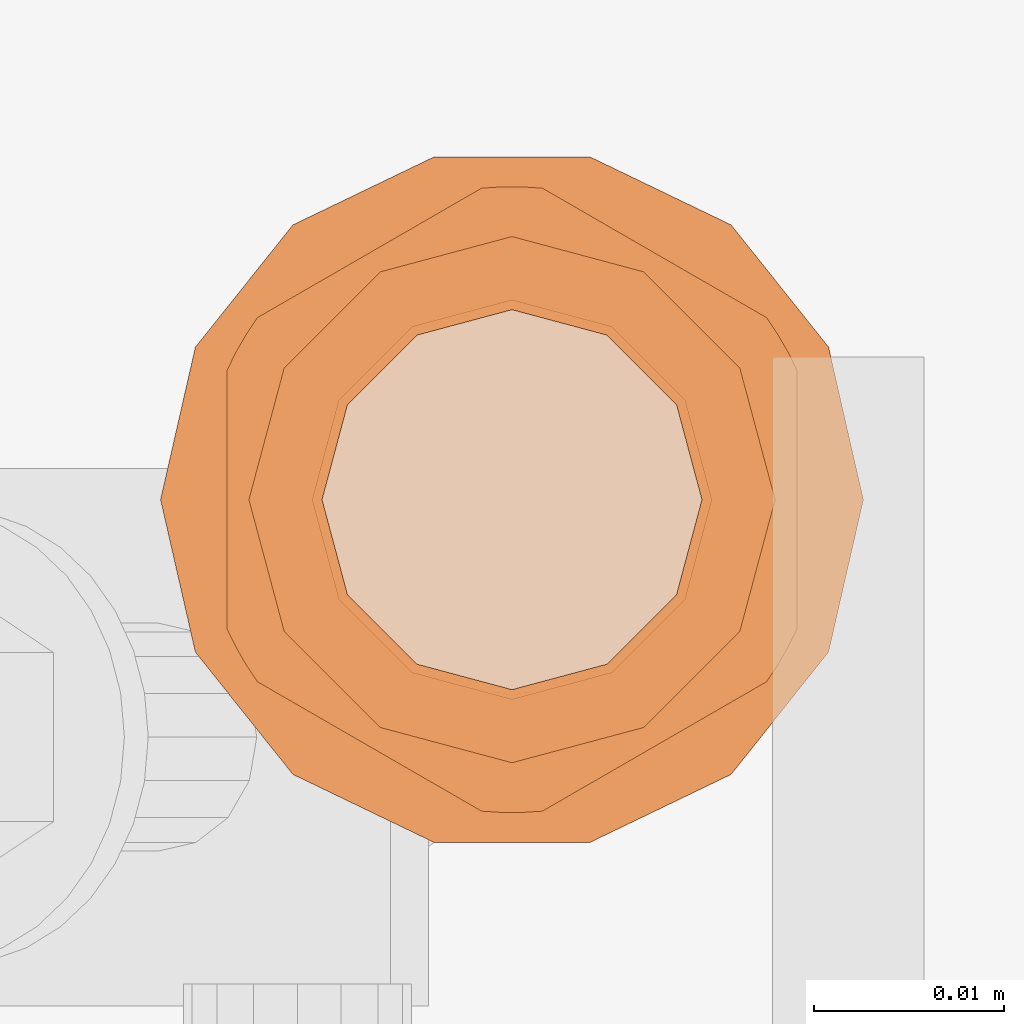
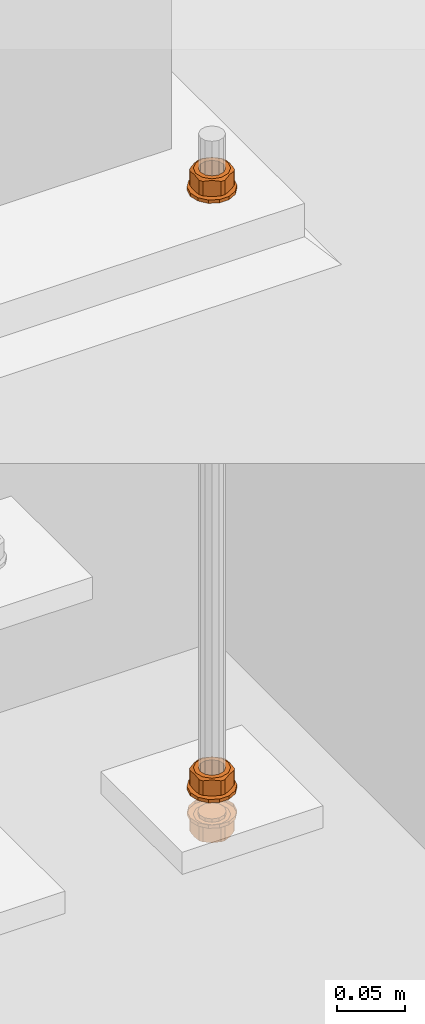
# One storey, part 138 of 145: 6 proxies.
"""IFC2X3 building model written with IfcOpenShell, lengths in millimetres."""

from ifc_helpers import new_model, entity, si_unit, converted_unit, origin_with_axes, place, context, project, spatial, faceted_brep, material, element, save


model = new_model("IFC2X3")

# Units and contexts
model_context = context("Model", 3, precision=1e-09, world=origin_with_axes())
ifc_project = project(units=[si_unit("LENGTHUNIT", "METRE", prefix="MILLI"), si_unit("AREAUNIT", "SQUARE_METRE"), si_unit("VOLUMEUNIT", "CUBIC_METRE"), converted_unit("PLANEANGLEUNIT", "DEGREE", entity("IfcPlaneAngleMeasure", 0.01745329), si_unit("PLANEANGLEUNIT", "RADIAN"), dimensions=[0, 0, 0, 0, 0, 0, 0])], contexts=[model_context])

# Site, building, storey
site_placement = place(None, origin_with_axes())
site = spatial("IfcSite", under=ifc_project, at=site_placement, Name="BZ1 Grund- und Mittelschule 85716 Unterschlei?heim", CompositionType="ELEMENT")
building_placement = place(site_placement, origin_with_axes())
building = spatial("IfcBuilding", under=site, at=building_placement, Name="Struktur 1", CompositionType="ELEMENT")
storey_placement = place(building_placement, origin_with_axes())
storey = spatial("IfcBuildingStorey", under=building, at=storey_placement, Name="Default Storey", CompositionType="ELEMENT", Elevation=0.0)

# Proxies
ifc_material = material(Name="A2")
proxy_1_placement = place(None, origin_with_axes())
element("IfcBuildingElementProxy", 1, at=proxy_1_placement, inside=storey, material=ifc_material, ObjectType="-", context=model_context, shape_type="Brep", body=[
    faceted_brep([(17192.379288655, -1850.538117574, -1247.0), (17184.961364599, -1846.965833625, -1247.0), (17176.728090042, -1846.965833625, -1247.0), (17169.310165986, -1850.538117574, -1247.0), (17164.176803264, -1856.975150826, -1247.0), (17162.344727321, -1865.002, -1247.0), (17164.176803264, -1873.028849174, -1247.0), (17169.310165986, -1879.465882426, -1247.0), (17176.728090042, -1883.038166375, -1247.0), (17184.961364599, -1883.038166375, -1247.0), (17192.379288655, -1879.465882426, -1247.0), (17197.512651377, -1873.028849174, -1247.0), (17199.344727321, -1865.002, -1247.0), (17197.512651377, -1856.975150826, -1247.0), (17180.844727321, -1854.502, -1247.0), (17186.094727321, -1855.90873326, -1247.0), (17189.93799406, -1859.752, -1247.0), (17191.344727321, -1865.002, -1247.0), (17189.93799406, -1870.252, -1247.0), (17186.094727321, -1874.09526674, -1247.0), (17180.844727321, -1875.502, -1247.0), (17175.594727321, -1874.09526674, -1247.0), (17171.751460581, -1870.252, -1247.0), (17170.344727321, -1865.002, -1247.0), (17171.751460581, -1859.752, -1247.0), (17175.594727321, -1855.90873326, -1247.0), (17169.310165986, -1850.538117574, -1250.0), (17176.728090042, -1846.965833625, -1250.0), (17184.961364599, -1846.965833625, -1250.0), (17192.379288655, -1850.538117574, -1250.0), (17197.512651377, -1856.975150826, -1250.0), (17199.344727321, -1865.002, -1250.0), (17197.512651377, -1873.028849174, -1250.0), (17192.379288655, -1879.465882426, -1250.0), (17184.961364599, -1883.038166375, -1250.0), (17176.728090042, -1883.038166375, -1250.0), (17169.310165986, -1879.465882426, -1250.0), (17164.176803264, -1873.028849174, -1250.0), (17162.344727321, -1865.002, -1250.0), (17164.176803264, -1856.975150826, -1250.0), (17180.844727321, -1854.502, -1250.0), (17175.594727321, -1855.90873326, -1250.0), (17171.751460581, -1859.752, -1250.0), (17170.344727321, -1865.002, -1250.0), (17171.751460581, -1870.252, -1250.0), (17175.594727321, -1874.09526674, -1250.0), (17180.844727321, -1875.502, -1250.0), (17186.094727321, -1874.09526674, -1250.0), (17189.93799406, -1870.252, -1250.0), (17191.344727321, -1865.002, -1250.0), (17189.93799406, -1859.752, -1250.0), (17186.094727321, -1855.90873326, -1250.0)], [[[0, 1, 2, 3, 4, 5, 6, 7, 8, 9, 10, 11, 12, 13], [14, 15, 16, 17, 18, 19, 20, 21, 22, 23, 24, 25]], [[26, 3, 2, 27]], [[26, 27, 28, 29, 30, 31, 32, 33, 34, 35, 36, 37, 38, 39], [40, 41, 42, 43, 44, 45, 46, 47, 48, 49, 50, 51]], [[3, 26, 39, 4]], [[41, 25, 24, 42]], [[4, 39, 38, 5]], [[25, 41, 40, 14]], [[27, 2, 1, 28]], [[42, 24, 23, 43]], [[5, 38, 37, 6]], [[14, 40, 51, 15]], [[28, 1, 0, 29]], [[43, 23, 22, 44]], [[6, 37, 36, 7]], [[15, 51, 50, 16]], [[29, 0, 13, 30]], [[44, 22, 21, 45]], [[7, 36, 35, 8]], [[16, 50, 49, 17]], [[12, 31, 30, 13]], [[45, 21, 20, 46]], [[8, 35, 34, 9]], [[31, 12, 11, 32]], [[17, 49, 48, 18]], [[10, 33, 32, 11]], [[9, 34, 33, 10]], [[46, 20, 19, 47]], [[18, 48, 47, 19]]]),
])
proxy_2_placement = place(None, origin_with_axes())
element("IfcBuildingElementProxy", 2, at=proxy_2_placement, inside=storey, material=ifc_material, ObjectType="-", context=model_context, shape_type="Brep", body=[
    faceted_brep([(17195.371914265, -1872.772872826, -1245.484455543), (17194.838094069, -1873.697476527, -1245.484455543), (17192.839179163, -1871.927, -1247.0), (17195.371914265, -1872.772872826, -1232.515544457), (17194.838094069, -1873.697476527, -1232.515544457), (17194.245508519, -1874.585563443, -1245.484455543), (17194.245508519, -1874.585563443, -1232.515544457), (17195.844727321, -1871.815635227, -1245.484455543), (17195.844727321, -1871.815635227, -1232.515544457), (17192.839179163, -1871.927, -1231.0), (17195.844727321, -1865.002, -1246.33604719), (17194.694727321, -1865.002, -1247.0), (17188.344727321, -1877.992381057, -1246.33604719), (17188.344727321, -1877.992381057, -1231.66395281), (17182.443946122, -1881.39919867, -1232.515544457), (17182.443946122, -1881.39919867, -1245.484455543), (17181.378547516, -1881.468349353, -1245.484455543), (17181.378547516, -1881.468349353, -1232.515544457), (17180.310907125, -1881.468349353, -1232.515544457), (17180.310907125, -1881.468349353, -1245.484455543), (17195.844727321, -1858.188364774, -1245.484455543), (17195.844727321, -1858.188364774, -1232.515544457), (17195.844727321, -1865.002, -1231.66395281), (17187.769727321, -1853.007548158, -1247.0), (17192.839179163, -1858.077, -1247.0), (17187.769727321, -1876.996451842, -1247.0), (17180.844727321, -1878.852, -1247.0), (17173.919727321, -1876.996451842, -1247.0), (17168.850275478, -1871.927, -1247.0), (17166.994727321, -1865.002, -1247.0), (17168.850275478, -1858.077, -1247.0), (17173.919727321, -1853.007548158, -1247.0), (17180.844727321, -1851.152, -1247.0), (17190.844727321, -1865.002, -1247.0), (17189.504981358, -1860.002, -1247.0), (17185.844727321, -1856.341745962, -1247.0), (17180.844727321, -1855.002, -1247.0), (17175.844727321, -1856.341745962, -1247.0), (17172.184473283, -1860.002, -1247.0), (17170.844727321, -1865.002, -1247.0), (17172.184473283, -1870.002, -1247.0), (17175.844727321, -1873.662254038, -1247.0), (17180.844727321, -1875.002, -1247.0), (17185.844727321, -1873.662254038, -1247.0), (17189.504981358, -1870.002, -1247.0), (17189.504981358, -1870.002, -1231.0), (17185.844727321, -1873.662254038, -1231.0), (17187.769727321, -1876.996451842, -1231.0), (17180.844727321, -1878.852, -1231.0), (17195.371914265, -1857.231127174, -1245.484455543), (17195.371914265, -1857.231127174, -1232.515544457), (17194.694727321, -1865.002, -1231.0), (17192.839179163, -1858.077, -1231.0), (17187.769727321, -1853.007548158, -1231.0), (17180.844727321, -1851.152, -1231.0), (17173.919727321, -1853.007548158, -1231.0), (17168.850275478, -1858.077, -1231.0), (17166.994727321, -1865.002, -1231.0), (17168.850275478, -1871.927, -1231.0), (17173.919727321, -1876.996451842, -1231.0), (17190.844727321, -1865.002, -1231.0), (17180.844727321, -1875.002, -1231.0), (17175.844727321, -1873.662254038, -1231.0), (17172.184473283, -1870.002, -1231.0), (17170.844727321, -1865.002, -1231.0), (17172.184473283, -1860.002, -1231.0), (17175.844727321, -1856.341745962, -1231.0), (17180.844727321, -1855.002, -1231.0), (17185.844727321, -1856.341745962, -1231.0), (17189.504981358, -1860.002, -1231.0), (17179.245508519, -1881.39919867, -1245.484455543), (17179.245508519, -1881.39919867, -1232.515544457), (17194.838094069, -1856.306523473, -1245.484455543), (17194.838094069, -1856.306523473, -1232.515544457), (17173.344727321, -1877.992381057, -1246.33604719), (17173.344727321, -1877.992381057, -1231.66395281), (17167.443946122, -1874.585563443, -1232.515544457), (17167.443946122, -1874.585563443, -1245.484455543), (17194.245508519, -1855.418436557, -1245.484455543), (17194.245508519, -1855.418436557, -1232.515544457), (17188.344727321, -1852.011618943, -1246.33604719), (17182.443946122, -1848.60480133, -1245.484455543), (17182.443946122, -1848.60480133, -1232.515544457), (17188.344727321, -1852.011618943, -1231.66395281), (17166.851360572, -1873.697476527, -1232.515544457), (17166.851360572, -1873.697476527, -1245.484455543), (17166.317540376, -1872.772872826, -1232.515544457), (17166.317540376, -1872.772872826, -1245.484455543), (17181.378547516, -1848.535650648, -1245.484455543), (17181.378547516, -1848.535650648, -1232.515544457), (17180.310907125, -1848.535650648, -1245.484455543), (17180.310907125, -1848.535650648, -1232.515544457), (17165.844727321, -1871.815635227, -1232.515544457), (17165.844727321, -1871.815635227, -1245.484455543), (17179.245508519, -1848.60480133, -1245.484455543), (17179.245508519, -1848.60480133, -1232.515544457), (17165.844727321, -1865.002, -1246.33604719), (17173.344727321, -1852.011618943, -1246.33604719), (17167.443946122, -1855.418436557, -1245.484455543), (17167.443946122, -1855.418436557, -1232.515544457), (17173.344727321, -1852.011618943, -1231.66395281), (17165.844727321, -1865.002, -1231.66395281), (17165.844727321, -1858.188364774, -1232.515544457), (17165.844727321, -1858.188364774, -1245.484455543), (17166.317540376, -1857.231127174, -1245.484455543), (17166.317540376, -1857.231127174, -1232.515544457), (17166.851360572, -1856.306523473, -1245.484455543), (17166.851360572, -1856.306523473, -1232.515544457)], [[[0, 1, 2]], [[0, 3, 4, 1]], [[5, 2, 1]], [[1, 4, 6, 5]], [[7, 0, 2]], [[3, 0, 7, 8]], [[9, 4, 3]], [[10, 7, 11]], [[7, 2, 11]], [[5, 12, 2]], [[6, 13, 14, 15, 12, 5]], [[9, 6, 4]], [[16, 17, 18, 19]], [[17, 16, 15, 14]], [[10, 20, 21, 22, 8, 7]], [[9, 3, 8]], [[20, 10, 11]], [[23, 24, 11, 2, 25, 26, 27, 28, 29, 30, 31, 32], [33, 34, 35, 36, 37, 38, 39, 40, 41, 42, 43, 44]], [[16, 19, 26]], [[12, 25, 2]], [[45, 44, 43, 46]], [[9, 47, 6]], [[48, 17, 14]], [[49, 50, 21, 20]], [[51, 9, 8]], [[9, 51, 52, 53, 54, 55, 56, 57, 58, 59, 48, 47], [60, 45, 46, 61, 62, 63, 64, 65, 66, 67, 68, 69]], [[44, 45, 60, 33]], [[20, 24, 49]], [[20, 11, 24]], [[70, 26, 19]], [[12, 15, 25]], [[15, 16, 26]], [[48, 14, 13]], [[47, 13, 6]], [[19, 18, 71, 70]], [[48, 18, 17]], [[72, 73, 50, 49]], [[51, 8, 22]], [[72, 49, 24]], [[70, 74, 26]], [[15, 26, 25]], [[46, 43, 42, 61]], [[47, 48, 13]], [[48, 71, 18]], [[71, 75, 76, 77, 74, 70]], [[33, 60, 69, 34]], [[78, 79, 73, 72]], [[52, 50, 73]], [[51, 22, 21]], [[52, 21, 50]], [[78, 72, 24]], [[74, 27, 26]], [[48, 59, 71]], [[80, 81, 82, 83, 79, 78]], [[52, 73, 79]], [[52, 51, 21]], [[78, 24, 23]], [[74, 77, 27]], [[61, 42, 41, 62]], [[59, 75, 71]], [[77, 76, 84, 85]], [[34, 69, 68, 35]], [[52, 79, 83]], [[80, 78, 23]], [[81, 80, 32]], [[77, 28, 27]], [[59, 58, 75]], [[58, 76, 75]], [[77, 85, 28]], [[85, 84, 86, 87]], [[88, 89, 82, 81]], [[53, 52, 83]], [[80, 23, 32]], [[81, 32, 88]], [[62, 41, 40, 63]], [[58, 84, 76]], [[85, 87, 28]], [[35, 68, 67, 36]], [[90, 91, 89, 88]], [[53, 83, 82]], [[54, 82, 89]], [[90, 88, 32]], [[86, 84, 58]], [[87, 86, 92, 93]], [[93, 28, 87]], [[39, 64, 63, 40]], [[91, 90, 94, 95]], [[54, 89, 91]], [[54, 53, 82]], [[94, 90, 32]], [[92, 86, 58]], [[93, 96, 28]], [[64, 39, 38, 65]], [[37, 66, 65, 38]], [[36, 67, 66, 37]], [[54, 91, 95]], [[94, 32, 31]], [[97, 98, 99, 100, 95, 94]], [[96, 29, 28]], [[92, 58, 57]], [[92, 101, 102, 103, 96, 93]], [[54, 95, 100]], [[97, 94, 31]], [[96, 103, 29]], [[101, 92, 57]], [[55, 54, 100]], [[97, 31, 30]], [[103, 30, 29]], [[101, 57, 56]], [[55, 100, 99]], [[98, 97, 30]], [[103, 104, 30]], [[103, 102, 105, 104]], [[102, 101, 56]], [[99, 56, 55]], [[98, 30, 106]], [[99, 98, 106, 107]], [[104, 106, 30]], [[102, 56, 105]], [[99, 107, 56]], [[104, 105, 107, 106]], [[107, 105, 56]]]),
])
proxy_3_placement = place(None, origin_with_axes())
element("IfcBuildingElementProxy", 3, at=proxy_3_placement, inside=storey, material=ifc_material, ObjectType="-", context=model_context, shape_type="Brep", body=[
    faceted_brep([(17194.838094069, -1873.697476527, -1274.515544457), (17195.371914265, -1872.772872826, -1274.515544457), (17192.839179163, -1871.927, -1273.0), (17195.371914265, -1872.772872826, -1287.484455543), (17194.838094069, -1873.697476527, -1287.484455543), (17194.245508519, -1874.585563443, -1274.515544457), (17194.245508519, -1874.585563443, -1287.484455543), (17195.844727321, -1871.815635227, -1274.515544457), (17195.844727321, -1871.815635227, -1287.484455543), (17192.839179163, -1871.927, -1289.0), (17195.844727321, -1865.002, -1273.66395281), (17194.694727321, -1865.002, -1273.0), (17188.344727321, -1877.992381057, -1273.66395281), (17188.344727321, -1877.992381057, -1288.33604719), (17182.443946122, -1881.39919867, -1274.515544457), (17182.443946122, -1881.39919867, -1287.484455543), (17181.378547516, -1881.468349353, -1287.484455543), (17181.378547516, -1881.468349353, -1274.515544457), (17180.310907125, -1881.468349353, -1274.515544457), (17180.310907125, -1881.468349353, -1287.484455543), (17195.844727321, -1858.188364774, -1274.515544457), (17195.844727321, -1865.002, -1288.33604719), (17195.844727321, -1858.188364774, -1287.484455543), (17192.839179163, -1858.077, -1273.0), (17187.769727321, -1853.007548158, -1273.0), (17180.844727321, -1851.152, -1273.0), (17173.919727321, -1853.007548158, -1273.0), (17168.850275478, -1858.077, -1273.0), (17166.994727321, -1865.002, -1273.0), (17168.850275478, -1871.927, -1273.0), (17173.919727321, -1876.996451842, -1273.0), (17180.844727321, -1878.852, -1273.0), (17187.769727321, -1876.996451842, -1273.0), (17190.844727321, -1865.002, -1273.0), (17189.504981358, -1870.002, -1273.0), (17185.844727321, -1873.662254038, -1273.0), (17180.844727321, -1875.002, -1273.0), (17175.844727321, -1873.662254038, -1273.0), (17172.184473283, -1870.002, -1273.0), (17170.844727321, -1865.002, -1273.0), (17172.184473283, -1860.002, -1273.0), (17175.844727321, -1856.341745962, -1273.0), (17180.844727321, -1855.002, -1273.0), (17185.844727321, -1856.341745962, -1273.0), (17189.504981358, -1860.002, -1273.0), (17189.504981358, -1870.002, -1289.0), (17185.844727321, -1873.662254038, -1289.0), (17187.769727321, -1876.996451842, -1289.0), (17180.844727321, -1878.852, -1289.0), (17195.371914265, -1857.231127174, -1287.484455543), (17195.371914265, -1857.231127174, -1274.515544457), (17194.694727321, -1865.002, -1289.0), (17190.844727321, -1865.002, -1289.0), (17189.504981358, -1860.002, -1289.0), (17185.844727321, -1856.341745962, -1289.0), (17180.844727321, -1855.002, -1289.0), (17175.844727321, -1856.341745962, -1289.0), (17172.184473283, -1860.002, -1289.0), (17170.844727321, -1865.002, -1289.0), (17172.184473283, -1870.002, -1289.0), (17175.844727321, -1873.662254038, -1289.0), (17180.844727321, -1875.002, -1289.0), (17179.245508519, -1881.39919867, -1274.515544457), (17179.245508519, -1881.39919867, -1287.484455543), (17194.838094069, -1856.306523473, -1287.484455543), (17194.838094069, -1856.306523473, -1274.515544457), (17173.344727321, -1877.992381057, -1273.66395281), (17173.344727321, -1877.992381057, -1288.33604719), (17167.443946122, -1874.585563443, -1274.515544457), (17167.443946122, -1874.585563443, -1287.484455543), (17194.245508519, -1855.418436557, -1287.484455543), (17194.245508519, -1855.418436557, -1274.515544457), (17192.839179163, -1858.077, -1289.0), (17173.919727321, -1876.996451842, -1289.0), (17182.443946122, -1848.60480133, -1274.515544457), (17188.344727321, -1852.011618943, -1273.66395281), (17188.344727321, -1852.011618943, -1288.33604719), (17182.443946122, -1848.60480133, -1287.484455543), (17166.851360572, -1873.697476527, -1274.515544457), (17166.851360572, -1873.697476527, -1287.484455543), (17168.850275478, -1871.927, -1289.0), (17166.317540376, -1872.772872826, -1274.515544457), (17166.317540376, -1872.772872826, -1287.484455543), (17181.378547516, -1848.535650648, -1287.484455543), (17181.378547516, -1848.535650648, -1274.515544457), (17187.769727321, -1853.007548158, -1289.0), (17180.310907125, -1848.535650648, -1287.484455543), (17180.310907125, -1848.535650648, -1274.515544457), (17180.844727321, -1851.152, -1289.0), (17165.844727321, -1871.815635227, -1274.515544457), (17165.844727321, -1871.815635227, -1287.484455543), (17179.245508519, -1848.60480133, -1287.484455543), (17179.245508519, -1848.60480133, -1274.515544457), (17165.844727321, -1865.002, -1273.66395281), (17167.443946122, -1855.418436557, -1274.515544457), (17173.344727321, -1852.011618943, -1273.66395281), (17173.344727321, -1852.011618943, -1288.33604719), (17167.443946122, -1855.418436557, -1287.484455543), (17166.994727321, -1865.002, -1289.0), (17165.844727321, -1865.002, -1288.33604719), (17165.844727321, -1858.188364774, -1274.515544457), (17165.844727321, -1858.188364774, -1287.484455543), (17173.919727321, -1853.007548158, -1289.0), (17168.850275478, -1858.077, -1289.0), (17166.317540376, -1857.231127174, -1274.515544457), (17166.317540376, -1857.231127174, -1287.484455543), (17166.851360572, -1856.306523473, -1274.515544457), (17166.851360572, -1856.306523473, -1287.484455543)], [[[0, 1, 2]], [[3, 1, 0, 4]], [[2, 5, 0]], [[4, 0, 5, 6]], [[1, 7, 2]], [[1, 3, 8, 7]], [[4, 9, 3]], [[7, 10, 11]], [[2, 7, 11]], [[12, 5, 2]], [[13, 6, 5, 12, 14, 15]], [[6, 9, 4]], [[16, 17, 18, 19]], [[17, 16, 15, 14]], [[20, 10, 7, 8, 21, 22]], [[3, 9, 8]], [[10, 20, 11]], [[23, 24, 25, 26, 27, 28, 29, 30, 31, 32, 2, 11], [33, 34, 35, 36, 37, 38, 39, 40, 41, 42, 43, 44]], [[18, 17, 31]], [[32, 12, 2]], [[34, 45, 46, 35]], [[47, 9, 6]], [[16, 48, 15]], [[49, 50, 20, 22]], [[9, 51, 8]], [[45, 52, 53, 54, 55, 56, 57, 58, 59, 60, 61, 46]], [[45, 34, 33, 52]], [[23, 20, 50]], [[11, 20, 23]], [[31, 62, 18]], [[14, 12, 32]], [[17, 14, 31]], [[15, 48, 13]], [[13, 47, 6]], [[19, 18, 62, 63]], [[19, 48, 16]], [[64, 65, 50, 49]], [[8, 51, 21]], [[50, 65, 23]], [[66, 62, 31]], [[31, 14, 32]], [[35, 46, 61, 36]], [[48, 47, 13]], [[63, 48, 19]], [[67, 63, 62, 66, 68, 69]], [[52, 33, 44, 53]], [[70, 71, 65, 64]], [[49, 72, 64]], [[21, 51, 22]], [[22, 72, 49]], [[65, 71, 23]], [[30, 66, 31]], [[73, 48, 63]], [[74, 75, 71, 70, 76, 77]], [[64, 72, 70]], [[51, 72, 22]], [[23, 71, 24]], [[68, 66, 30]], [[36, 61, 60, 37]], [[67, 73, 63]], [[69, 68, 78, 79]], [[53, 44, 43, 54]], [[70, 72, 76]], [[71, 75, 24]], [[75, 74, 25]], [[29, 68, 30]], [[80, 73, 67]], [[69, 80, 67]], [[78, 68, 29]], [[79, 78, 81, 82]], [[83, 84, 74, 77]], [[72, 85, 76]], [[24, 75, 25]], [[25, 74, 84]], [[37, 60, 59, 38]], [[79, 80, 69]], [[81, 78, 29]], [[54, 43, 42, 55]], [[86, 87, 84, 83]], [[76, 85, 77]], [[77, 88, 83]], [[84, 87, 25]], [[79, 82, 80]], [[82, 81, 89, 90]], [[29, 89, 81]], [[58, 39, 38, 59]], [[87, 86, 91, 92]], [[83, 88, 86]], [[85, 88, 77]], [[87, 92, 25]], [[82, 90, 80]], [[93, 89, 29]], [[39, 58, 57, 40]], [[56, 41, 40, 57]], [[55, 42, 41, 56]], [[86, 88, 91]], [[25, 92, 26]], [[94, 95, 92, 91, 96, 97]], [[28, 93, 29]], [[80, 90, 98]], [[99, 90, 89, 93, 100, 101]], [[91, 88, 96]], [[92, 95, 26]], [[100, 93, 28]], [[90, 99, 98]], [[88, 102, 96]], [[26, 95, 27]], [[27, 100, 28]], [[98, 99, 103]], [[96, 102, 97]], [[95, 94, 27]], [[104, 100, 27]], [[101, 100, 104, 105]], [[99, 101, 103]], [[103, 97, 102]], [[27, 94, 106]], [[94, 97, 107, 106]], [[106, 104, 27]], [[103, 101, 105]], [[107, 97, 103]], [[105, 104, 106, 107]], [[105, 107, 103]]]),
])
proxy_4_placement = place(None, origin_with_axes())
element("IfcBuildingElementProxy", 4, at=proxy_4_placement, inside=storey, material=ifc_material, ObjectType="-", context=model_context, shape_type="Brep", body=[
    faceted_brep([(17184.961364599, -1846.965833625, -1273.0), (17192.379288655, -1850.538117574, -1273.0), (17197.512651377, -1856.975150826, -1273.0), (17199.344727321, -1865.002, -1273.0), (17197.512651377, -1873.028849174, -1273.0), (17192.379288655, -1879.465882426, -1273.0), (17184.961364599, -1883.038166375, -1273.0), (17176.728090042, -1883.038166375, -1273.0), (17169.310165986, -1879.465882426, -1273.0), (17164.176803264, -1873.028849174, -1273.0), (17162.344727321, -1865.002, -1273.0), (17164.176803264, -1856.975150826, -1273.0), (17169.310165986, -1850.538117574, -1273.0), (17176.728090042, -1846.965833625, -1273.0), (17180.844727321, -1854.502, -1273.0), (17175.594727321, -1855.90873326, -1273.0), (17171.751460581, -1859.752, -1273.0), (17170.344727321, -1865.002, -1273.0), (17171.751460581, -1870.252, -1273.0), (17175.594727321, -1874.09526674, -1273.0), (17180.844727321, -1875.502, -1273.0), (17186.094727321, -1874.09526674, -1273.0), (17189.93799406, -1870.252, -1273.0), (17191.344727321, -1865.002, -1273.0), (17189.93799406, -1859.752, -1273.0), (17186.094727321, -1855.90873326, -1273.0), (17169.310165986, -1850.538117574, -1270.0), (17176.728090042, -1846.965833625, -1270.0), (17175.594727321, -1855.90873326, -1270.0), (17180.844727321, -1854.502, -1270.0), (17186.094727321, -1855.90873326, -1270.0), (17189.93799406, -1859.752, -1270.0), (17191.344727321, -1865.002, -1270.0), (17189.93799406, -1870.252, -1270.0), (17186.094727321, -1874.09526674, -1270.0), (17180.844727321, -1875.502, -1270.0), (17175.594727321, -1874.09526674, -1270.0), (17171.751460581, -1870.252, -1270.0), (17170.344727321, -1865.002, -1270.0), (17171.751460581, -1859.752, -1270.0), (17164.176803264, -1856.975150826, -1270.0), (17162.344727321, -1865.002, -1270.0), (17184.961364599, -1846.965833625, -1270.0), (17164.176803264, -1873.028849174, -1270.0), (17192.379288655, -1850.538117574, -1270.0), (17169.310165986, -1879.465882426, -1270.0), (17197.512651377, -1856.975150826, -1270.0), (17176.728090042, -1883.038166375, -1270.0), (17199.344727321, -1865.002, -1270.0), (17184.961364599, -1883.038166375, -1270.0), (17197.512651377, -1873.028849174, -1270.0), (17192.379288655, -1879.465882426, -1270.0)], [[[0, 1, 2, 3, 4, 5, 6, 7, 8, 9, 10, 11, 12, 13], [14, 15, 16, 17, 18, 19, 20, 21, 22, 23, 24, 25]], [[12, 26, 27, 13]], [[28, 29, 30, 31, 32, 33, 34, 35, 36, 37, 38, 39]], [[26, 12, 11, 40]], [[15, 28, 39, 16]], [[40, 11, 10, 41]], [[28, 15, 14, 29]], [[13, 27, 42, 0]], [[16, 39, 38, 17]], [[41, 10, 9, 43]], [[29, 14, 25, 30]], [[0, 42, 44, 1]], [[17, 38, 37, 18]], [[43, 9, 8, 45]], [[30, 25, 24, 31]], [[1, 44, 46, 2]], [[18, 37, 36, 19]], [[45, 8, 7, 47]], [[31, 24, 23, 32]], [[48, 3, 2, 46]], [[19, 36, 35, 20]], [[47, 7, 6, 49]], [[3, 48, 50, 4]], [[32, 23, 22, 33]], [[51, 5, 4, 50]], [[49, 6, 5, 51]], [[20, 35, 34, 21]], [[33, 22, 21, 34]]]),
])
proxy_5_placement = place(None, origin_with_axes())
element("IfcBuildingElementProxy", 5, at=proxy_5_placement, inside=storey, material=ifc_material, ObjectType="-", context=model_context, shape_type="Brep", body=[
    faceted_brep([(17192.379288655, -1850.538117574, -707.0), (17184.961364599, -1846.965833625, -707.0), (17176.728090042, -1846.965833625, -707.0), (17169.310165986, -1850.538117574, -707.0), (17164.176803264, -1856.975150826, -707.0), (17162.344727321, -1865.002, -707.0), (17164.176803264, -1873.028849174, -707.0), (17169.310165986, -1879.465882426, -707.0), (17176.728090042, -1883.038166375, -707.0), (17184.961364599, -1883.038166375, -707.0), (17192.379288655, -1879.465882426, -707.0), (17197.512651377, -1873.028849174, -707.0), (17199.344727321, -1865.002, -707.0), (17197.512651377, -1856.975150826, -707.0), (17180.844727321, -1854.502, -707.0), (17186.094727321, -1855.90873326, -707.0), (17189.93799406, -1859.752, -707.0), (17191.344727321, -1865.002, -707.0), (17189.93799406, -1870.252, -707.0), (17186.094727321, -1874.09526674, -707.0), (17180.844727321, -1875.502, -707.0), (17175.594727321, -1874.09526674, -707.0), (17171.751460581, -1870.252, -707.0), (17170.344727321, -1865.002, -707.0), (17171.751460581, -1859.752, -707.0), (17175.594727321, -1855.90873326, -707.0), (17169.310165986, -1850.538117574, -710.0), (17176.728090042, -1846.965833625, -710.0), (17184.961364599, -1846.965833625, -710.0), (17192.379288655, -1850.538117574, -710.0), (17197.512651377, -1856.975150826, -710.0), (17199.344727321, -1865.002, -710.0), (17197.512651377, -1873.028849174, -710.0), (17192.379288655, -1879.465882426, -710.0), (17184.961364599, -1883.038166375, -710.0), (17176.728090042, -1883.038166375, -710.0), (17169.310165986, -1879.465882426, -710.0), (17164.176803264, -1873.028849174, -710.0), (17162.344727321, -1865.002, -710.0), (17164.176803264, -1856.975150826, -710.0), (17180.844727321, -1854.502, -710.0), (17175.594727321, -1855.90873326, -710.0), (17171.751460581, -1859.752, -710.0), (17170.344727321, -1865.002, -710.0), (17171.751460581, -1870.252, -710.0), (17175.594727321, -1874.09526674, -710.0), (17180.844727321, -1875.502, -710.0), (17186.094727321, -1874.09526674, -710.0), (17189.93799406, -1870.252, -710.0), (17191.344727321, -1865.002, -710.0), (17189.93799406, -1859.752, -710.0), (17186.094727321, -1855.90873326, -710.0)], [[[0, 1, 2, 3, 4, 5, 6, 7, 8, 9, 10, 11, 12, 13], [14, 15, 16, 17, 18, 19, 20, 21, 22, 23, 24, 25]], [[26, 3, 2, 27]], [[26, 27, 28, 29, 30, 31, 32, 33, 34, 35, 36, 37, 38, 39], [40, 41, 42, 43, 44, 45, 46, 47, 48, 49, 50, 51]], [[3, 26, 39, 4]], [[41, 25, 24, 42]], [[4, 39, 38, 5]], [[25, 41, 40, 14]], [[27, 2, 1, 28]], [[42, 24, 23, 43]], [[5, 38, 37, 6]], [[14, 40, 51, 15]], [[28, 1, 0, 29]], [[43, 23, 22, 44]], [[6, 37, 36, 7]], [[15, 51, 50, 16]], [[29, 0, 13, 30]], [[44, 22, 21, 45]], [[7, 36, 35, 8]], [[16, 50, 49, 17]], [[12, 31, 30, 13]], [[45, 21, 20, 46]], [[8, 35, 34, 9]], [[31, 12, 11, 32]], [[17, 49, 48, 18]], [[10, 33, 32, 11]], [[9, 34, 33, 10]], [[46, 20, 19, 47]], [[18, 48, 47, 19]]]),
])
proxy_6_placement = place(None, origin_with_axes())
element("IfcBuildingElementProxy", 6, at=proxy_6_placement, inside=storey, material=ifc_material, ObjectType="-", context=model_context, shape_type="Brep", body=[
    faceted_brep([(17195.371914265, -1872.772872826, -705.484455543), (17194.838094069, -1873.697476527, -705.484455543), (17192.839179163, -1871.927, -707.0), (17195.371914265, -1872.772872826, -692.515544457), (17194.838094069, -1873.697476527, -692.515544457), (17194.245508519, -1874.585563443, -705.484455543), (17194.245508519, -1874.585563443, -692.515544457), (17195.844727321, -1871.815635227, -705.484455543), (17195.844727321, -1871.815635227, -692.515544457), (17192.839179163, -1871.927, -691.0), (17195.844727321, -1865.002, -706.33604719), (17194.694727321, -1865.002, -707.0), (17188.344727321, -1877.992381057, -706.33604719), (17188.344727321, -1877.992381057, -691.66395281), (17182.443946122, -1881.39919867, -692.515544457), (17182.443946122, -1881.39919867, -705.484455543), (17181.378547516, -1881.468349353, -705.484455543), (17181.378547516, -1881.468349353, -692.515544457), (17180.310907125, -1881.468349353, -692.515544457), (17180.310907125, -1881.468349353, -705.484455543), (17195.844727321, -1858.188364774, -705.484455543), (17195.844727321, -1858.188364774, -692.515544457), (17195.844727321, -1865.002, -691.66395281), (17187.769727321, -1853.007548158, -707.0), (17192.839179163, -1858.077, -707.0), (17187.769727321, -1876.996451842, -707.0), (17180.844727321, -1878.852, -707.0), (17173.919727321, -1876.996451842, -707.0), (17168.850275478, -1871.927, -707.0), (17166.994727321, -1865.002, -707.0), (17168.850275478, -1858.077, -707.0), (17173.919727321, -1853.007548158, -707.0), (17180.844727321, -1851.152, -707.0), (17190.844727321, -1865.002, -707.0), (17189.504981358, -1860.002, -707.0), (17185.844727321, -1856.341745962, -707.0), (17180.844727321, -1855.002, -707.0), (17175.844727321, -1856.341745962, -707.0), (17172.184473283, -1860.002, -707.0), (17170.844727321, -1865.002, -707.0), (17172.184473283, -1870.002, -707.0), (17175.844727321, -1873.662254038, -707.0), (17180.844727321, -1875.002, -707.0), (17185.844727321, -1873.662254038, -707.0), (17189.504981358, -1870.002, -707.0), (17189.504981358, -1870.002, -691.0), (17185.844727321, -1873.662254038, -691.0), (17187.769727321, -1876.996451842, -691.0), (17180.844727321, -1878.852, -691.0), (17195.371914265, -1857.231127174, -705.484455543), (17195.371914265, -1857.231127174, -692.515544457), (17194.694727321, -1865.002, -691.0), (17192.839179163, -1858.077, -691.0), (17187.769727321, -1853.007548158, -691.0), (17180.844727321, -1851.152, -691.0), (17173.919727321, -1853.007548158, -691.0), (17168.850275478, -1858.077, -691.0), (17166.994727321, -1865.002, -691.0), (17168.850275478, -1871.927, -691.0), (17173.919727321, -1876.996451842, -691.0), (17190.844727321, -1865.002, -691.0), (17180.844727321, -1875.002, -691.0), (17175.844727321, -1873.662254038, -691.0), (17172.184473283, -1870.002, -691.0), (17170.844727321, -1865.002, -691.0), (17172.184473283, -1860.002, -691.0), (17175.844727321, -1856.341745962, -691.0), (17180.844727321, -1855.002, -691.0), (17185.844727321, -1856.341745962, -691.0), (17189.504981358, -1860.002, -691.0), (17179.245508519, -1881.39919867, -705.484455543), (17179.245508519, -1881.39919867, -692.515544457), (17194.838094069, -1856.306523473, -705.484455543), (17194.838094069, -1856.306523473, -692.515544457), (17173.344727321, -1877.992381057, -706.33604719), (17173.344727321, -1877.992381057, -691.66395281), (17167.443946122, -1874.585563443, -692.515544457), (17167.443946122, -1874.585563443, -705.484455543), (17194.245508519, -1855.418436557, -705.484455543), (17194.245508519, -1855.418436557, -692.515544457), (17188.344727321, -1852.011618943, -706.33604719), (17182.443946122, -1848.60480133, -705.484455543), (17182.443946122, -1848.60480133, -692.515544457), (17188.344727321, -1852.011618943, -691.66395281), (17166.851360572, -1873.697476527, -692.515544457), (17166.851360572, -1873.697476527, -705.484455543), (17166.317540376, -1872.772872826, -692.515544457), (17166.317540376, -1872.772872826, -705.484455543), (17181.378547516, -1848.535650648, -705.484455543), (17181.378547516, -1848.535650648, -692.515544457), (17180.310907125, -1848.535650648, -705.484455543), (17180.310907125, -1848.535650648, -692.515544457), (17165.844727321, -1871.815635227, -692.515544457), (17165.844727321, -1871.815635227, -705.484455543), (17179.245508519, -1848.60480133, -705.484455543), (17179.245508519, -1848.60480133, -692.515544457), (17165.844727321, -1865.002, -706.33604719), (17173.344727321, -1852.011618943, -706.33604719), (17167.443946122, -1855.418436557, -705.484455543), (17167.443946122, -1855.418436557, -692.515544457), (17173.344727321, -1852.011618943, -691.66395281), (17165.844727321, -1865.002, -691.66395281), (17165.844727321, -1858.188364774, -692.515544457), (17165.844727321, -1858.188364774, -705.484455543), (17166.317540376, -1857.231127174, -705.484455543), (17166.317540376, -1857.231127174, -692.515544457), (17166.851360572, -1856.306523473, -705.484455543), (17166.851360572, -1856.306523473, -692.515544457)], [[[0, 1, 2]], [[0, 3, 4, 1]], [[5, 2, 1]], [[1, 4, 6, 5]], [[7, 0, 2]], [[3, 0, 7, 8]], [[9, 4, 3]], [[10, 7, 11]], [[7, 2, 11]], [[5, 12, 2]], [[6, 13, 14, 15, 12, 5]], [[9, 6, 4]], [[16, 17, 18, 19]], [[17, 16, 15, 14]], [[10, 20, 21, 22, 8, 7]], [[9, 3, 8]], [[20, 10, 11]], [[23, 24, 11, 2, 25, 26, 27, 28, 29, 30, 31, 32], [33, 34, 35, 36, 37, 38, 39, 40, 41, 42, 43, 44]], [[16, 19, 26]], [[12, 25, 2]], [[45, 44, 43, 46]], [[9, 47, 6]], [[48, 17, 14]], [[49, 50, 21, 20]], [[51, 9, 8]], [[9, 51, 52, 53, 54, 55, 56, 57, 58, 59, 48, 47], [60, 45, 46, 61, 62, 63, 64, 65, 66, 67, 68, 69]], [[44, 45, 60, 33]], [[20, 24, 49]], [[20, 11, 24]], [[70, 26, 19]], [[12, 15, 25]], [[15, 16, 26]], [[48, 14, 13]], [[47, 13, 6]], [[19, 18, 71, 70]], [[48, 18, 17]], [[72, 73, 50, 49]], [[51, 8, 22]], [[72, 49, 24]], [[70, 74, 26]], [[15, 26, 25]], [[46, 43, 42, 61]], [[47, 48, 13]], [[48, 71, 18]], [[71, 75, 76, 77, 74, 70]], [[33, 60, 69, 34]], [[78, 79, 73, 72]], [[52, 50, 73]], [[51, 22, 21]], [[52, 21, 50]], [[78, 72, 24]], [[74, 27, 26]], [[48, 59, 71]], [[80, 81, 82, 83, 79, 78]], [[52, 73, 79]], [[52, 51, 21]], [[78, 24, 23]], [[74, 77, 27]], [[61, 42, 41, 62]], [[59, 75, 71]], [[77, 76, 84, 85]], [[34, 69, 68, 35]], [[52, 79, 83]], [[80, 78, 23]], [[81, 80, 32]], [[77, 28, 27]], [[59, 58, 75]], [[58, 76, 75]], [[77, 85, 28]], [[85, 84, 86, 87]], [[88, 89, 82, 81]], [[53, 52, 83]], [[80, 23, 32]], [[81, 32, 88]], [[62, 41, 40, 63]], [[58, 84, 76]], [[85, 87, 28]], [[35, 68, 67, 36]], [[90, 91, 89, 88]], [[53, 83, 82]], [[54, 82, 89]], [[90, 88, 32]], [[86, 84, 58]], [[87, 86, 92, 93]], [[93, 28, 87]], [[39, 64, 63, 40]], [[91, 90, 94, 95]], [[54, 89, 91]], [[54, 53, 82]], [[94, 90, 32]], [[92, 86, 58]], [[93, 96, 28]], [[64, 39, 38, 65]], [[37, 66, 65, 38]], [[36, 67, 66, 37]], [[54, 91, 95]], [[94, 32, 31]], [[97, 98, 99, 100, 95, 94]], [[96, 29, 28]], [[92, 58, 57]], [[92, 101, 102, 103, 96, 93]], [[54, 95, 100]], [[97, 94, 31]], [[96, 103, 29]], [[101, 92, 57]], [[55, 54, 100]], [[97, 31, 30]], [[103, 30, 29]], [[101, 57, 56]], [[55, 100, 99]], [[98, 97, 30]], [[103, 104, 30]], [[103, 102, 105, 104]], [[102, 101, 56]], [[99, 56, 55]], [[98, 30, 106]], [[99, 98, 106, 107]], [[104, 106, 30]], [[102, 56, 105]], [[99, 107, 56]], [[104, 105, 107, 106]], [[107, 105, 56]]]),
])

save(model, "model.ifc")
